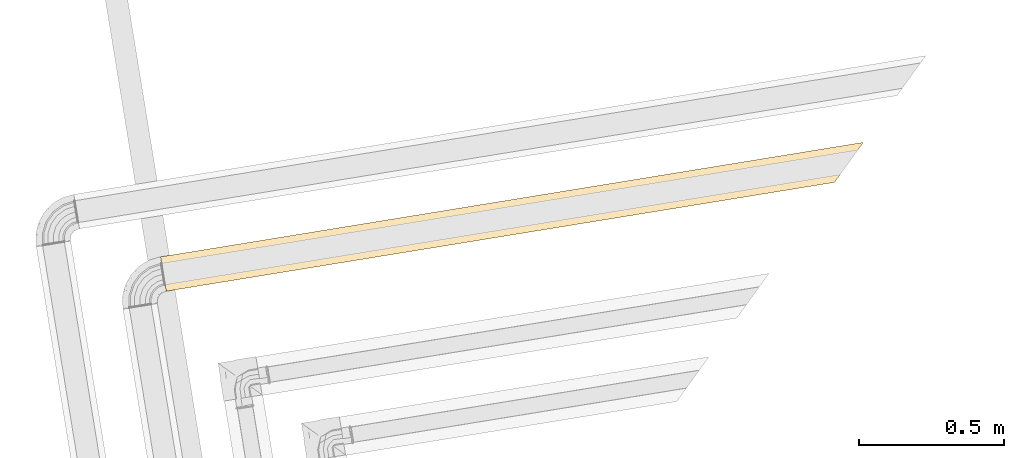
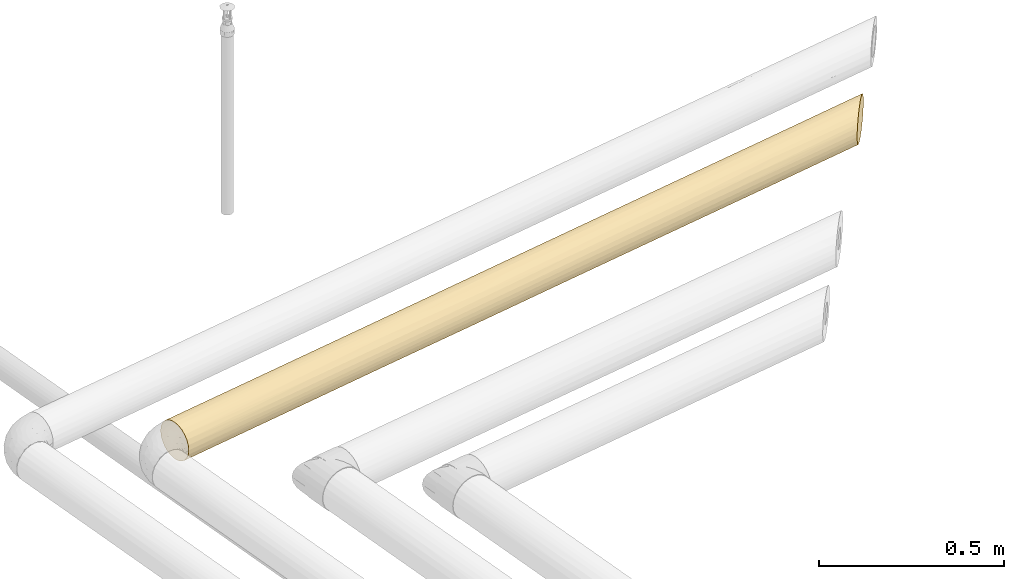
# One storey, part 6 of 46: 1 covering.
"""IFC2X3 building model written with IfcOpenShell, lengths in millimetres."""

import ifcopenshell
import ifcopenshell.guid

model = None  # the IFC model being written
_history = None  # IfcOwnerHistory: only IFC2X3 demands one
_inside = {}  # id of a spatial element -> (the spatial element, [elements in it])
_under = {}  # id of a project, library or spatial element -> (it, [spatial elements below it])
_declared = {}  # id of a project -> (the project, [libraries it declares])
_typed = {}  # id of a type object -> (the type object, [elements of that type])
_made_of = {}  # id of a material, layer set ... -> (it, [elements and type objects made of it])


def new_model(schema):
    """Start an empty IFC model of exactly this schema.

    Asked for "IFC4X3", IfcOpenShell would pick the latest addendum, in which some entities
    have other attributes; the version numbers below select the first issue.
    IFC2X3 requires an IfcOwnerHistory on every rooted entity: one is made here for all.
    """
    global model, _history
    if schema == "IFC4X3":
        model = ifcopenshell.file(schema_version=(4, 3, 0, 0))
    else:
        model = ifcopenshell.file(schema=schema)
    _inside.clear()
    _under.clear()
    _declared.clear()
    _typed.clear()
    _made_of.clear()
    _history = None
    if model.schema == "IFC2X3":
        org = make("IfcOrganization", Name="unknown")
        user = make(
            "IfcPersonAndOrganization",
            ThePerson=make("IfcPerson", FamilyName="unknown"),
            TheOrganization=org,
        )
        app = make(
            "IfcApplication",
            ApplicationDeveloper=org,
            Version="unknown",
            ApplicationFullName="unknown",
            ApplicationIdentifier="unknown",
        )
        _history = make(
            "IfcOwnerHistory",
            OwningUser=user,
            OwningApplication=app,
            ChangeAction="ADDED",
            CreationDate=0,
        )
    return model


def make(cls, **values):
    """One entity of the class cls with the attributes given. An attribute that is None is left unset."""
    return model.create_entity(
        cls, **{name: value for name, value in values.items() if value is not None}
    )


def entity(cls, *values):
    """Any entity or typed value of the class cls, its attributes in the order of the schema. None: left unset."""
    e = model.create_entity(cls)
    for i, value in enumerate(values):
        if value is not None:
            e[i] = value
    return e


def rooted(cls, **values):
    """An entity with a GlobalId (a new one), such as an element, a storey or a relation."""
    return make(cls, GlobalId=ifcopenshell.guid.new(), OwnerHistory=_history, **values)


def si_unit(unit_type, name, prefix=None):
    """IfcSIUnit, for example si_unit("LENGTHUNIT", "METRE", prefix="MILLI")."""
    return make("IfcSIUnit", UnitType=unit_type, Prefix=prefix, Name=name)


def converted_unit(unit_type, name, factor, base, dimensions=None, offset=None):
    """IfcConversionBasedUnit, such as the inch: factor (a typed value) times the base unit."""
    return make(
        "IfcConversionBasedUnit"
        if offset is None
        else "IfcConversionBasedUnitWithOffset",
        ConversionOffset=offset,
        Dimensions=None
        if dimensions is None
        else entity("IfcDimensionalExponents", *dimensions),
        UnitType=unit_type,
        Name=name,
        ConversionFactor=make(
            "IfcMeasureWithUnit", ValueComponent=factor, UnitComponent=base
        ),
    )


def derived_unit(unit_type, elements):
    """IfcDerivedUnit: a product of units, each with its exponent."""
    return make(
        "IfcDerivedUnit",
        Elements=[
            make("IfcDerivedUnitElement", Unit=unit, Exponent=power)
            for unit, power in elements
        ],
        UnitType=unit_type,
    )


def assignment(units):
    """IfcUnitAssignment: the units of a project."""
    return None if units is None else make("IfcUnitAssignment", Units=units)


def point(xyz):
    """IfcCartesianPoint."""
    return None if xyz is None else make("IfcCartesianPoint", Coordinates=xyz)


def direction(xyz):
    """IfcDirection."""
    return None if xyz is None else make("IfcDirection", DirectionRatios=xyz)


def frame(location, z_axis=None, x_axis=None):
    """IfcAxis2Placement3D, a coordinate frame: its origin and axes. An axis left out is left unset."""
    return make(
        "IfcAxis2Placement3D",
        Location=point(location),
        Axis=direction(z_axis),
        RefDirection=direction(x_axis),
    )


def origin():
    """The frame at (0, 0, 0) with its axes left unset."""
    return frame((0.0, 0.0, 0.0))


def origin_with_axes():
    """The frame at (0, 0, 0) with the z axis (0, 0, 1) and the x axis (1, 0, 0) written out."""
    return frame((0.0, 0.0, 0.0), z_axis=(0.0, 0.0, 1.0), x_axis=(1.0, 0.0, 0.0))


def place(relative_to, where):
    """IfcLocalPlacement: puts the frame where relative to a parent placement (None: the world)."""
    return make(
        "IfcLocalPlacement", PlacementRelTo=relative_to, RelativePlacement=where
    )


def context(
    kind, dimensions, precision=None, world=None, true_north=None, identifier=None
):
    """IfcGeometricRepresentationContext, for example the 3D "Model" context."""
    return make(
        "IfcGeometricRepresentationContext",
        ContextIdentifier=identifier,
        ContextType=kind,
        CoordinateSpaceDimension=dimensions,
        Precision=precision,
        WorldCoordinateSystem=world,
        TrueNorth=true_north,
    )


def subcontext(parent, identifier, kind, view, scale=None):
    """IfcGeometricRepresentationSubContext, for example "Body" below "Model"."""
    return make(
        "IfcGeometricRepresentationSubContext",
        ContextIdentifier=identifier,
        ContextType=kind,
        ParentContext=parent,
        TargetScale=scale,
        TargetView=view,
    )


def project(units=None, contexts=None):
    """IfcProject with its units and contexts."""
    return rooted(
        "IfcProject",
        Name="project",
        RepresentationContexts=contexts,
        UnitsInContext=assignment(units),
    )


def spatial(cls, under=None, at=None, **own):
    """A site, building, storey or space (cls), placed at a placement, below another one or the project."""
    s = rooted(cls, ObjectPlacement=at, **own)
    if under is not None:
        _under.setdefault(under.id(), (under, []))[1].append(s)
    return s


def faces_of(points, faces, orient=None, outer=None):
    """IfcFace entities. A face is a list of loops; a loop is a list of indices into points, from 0.

    orient and outer hold one flag for each loop. By default every Orientation is true, the
    first loop of a face is its IfcFaceOuterBound and the others are IfcFaceBound.
    """
    made = []
    for i, loops in enumerate(faces):
        bounds = []
        for j, loop in enumerate(loops):
            is_outer = j == 0 if outer is None else outer[i][j]
            bounds.append(
                make(
                    "IfcFaceOuterBound" if is_outer else "IfcFaceBound",
                    Bound=make("IfcPolyLoop", Polygon=[points[k] for k in loop]),
                    Orientation=True if orient is None else orient[i][j],
                )
            )
        made.append(make("IfcFace", Bounds=bounds))
    return made


def faceted_brep(points, faces, orient=None, outer=None, voids=None):
    """IfcFacetedBrep: a solid bounded by flat faces; with voids (closed shells), ...WithVoids."""
    shared = [point(p) for p in points]
    hull = make("IfcClosedShell", CfsFaces=faces_of(shared, faces, orient, outer))
    if voids is None:
        return make("IfcFacetedBrep", Outer=hull)
    return make(
        "IfcFacetedBrepWithVoids",
        Outer=hull,
        Voids=[
            make(cls, CfsFaces=faces_of(shared, fs, o, b)) for cls, fs, o, b in voids
        ],
    )


def shape(context_of_items, identifier, shape_type, items):
    """IfcShapeRepresentation: the items that make up one representation, for example the "Body"."""
    return make(
        "IfcShapeRepresentation",
        ContextOfItems=context_of_items,
        RepresentationIdentifier=identifier,
        RepresentationType=shape_type,
        Items=items,
    )


def made_of(thing, what):
    """Note that an element or type object is made of a material, layer set ...; save() writes the relation."""
    if what is not None:
        _made_of.setdefault(what.id(), (what, []))[1].append(thing)
    return thing


def type_object(cls, material=None, **own):
    """A type object (cls), such as IfcWallType, which elements share."""
    return made_of(rooted(cls, **own), material)


def element(
    cls,
    number,
    at=None,
    inside=None,
    cuts=None,
    type_object=None,
    material=None,
    context=None,
    identifier="Body",
    shape_type=None,
    held_by="IfcProductDefinitionShape",
    body=None,
    shapes=None,
    **own,
):
    """One element of the class cls, such as IfcWall. Its Tag is "e" and its number.

    at: its placement. inside: the storey or other place that contains it. cuts: it is an
    opening in that element (IfcRelVoidsElement). A single representation is given by context,
    identifier, shape_type and body (its items); several are given by shapes. held_by: the class
    of the entity that holds the representations. save() writes the other relations.
    """
    e = rooted(cls, Tag="e%d" % number, ObjectPlacement=at, **own)
    if body is not None:
        shapes = [shape(context, identifier, shape_type, body)]
    if shapes is not None:
        e.Representation = make(held_by, Representations=shapes)
    if inside is not None:
        _inside.setdefault(inside.id(), (inside, []))[1].append(e)
    if cuts is not None:
        rooted(
            "IfcRelVoidsElement", RelatingBuildingElement=cuts, RelatedOpeningElement=e
        )
    if type_object is not None:
        _typed.setdefault(type_object.id(), (type_object, []))[1].append(e)
    return made_of(e, material)


def aggregate(whole, parts):
    """IfcRelAggregates: a whole, such as a stair, and the parts it consists of."""
    return rooted("IfcRelAggregates", RelatingObject=whole, RelatedObjects=parts)


def save(model, path):
    """Write the relations noted so far, then the file.

    IfcRelAggregates (storeys below a building ...), IfcRelContainedInSpatialStructure (elements
    in a storey), IfcRelDefinesByType, IfcRelAssociatesMaterial and IfcRelDeclares: one each for
    every whole, place, type object, material and project.
    """
    for whole, parts in _under.values():
        aggregate(whole, parts)
    for where, things in _inside.values():
        rooted(
            "IfcRelContainedInSpatialStructure",
            RelatedElements=things,
            RelatingStructure=where,
        )
    for kind, things in _typed.values():
        rooted("IfcRelDefinesByType", RelatedObjects=things, RelatingType=kind)
    for what, things in _made_of.values():
        rooted("IfcRelAssociatesMaterial", RelatedObjects=things, RelatingMaterial=what)
    for by, libraries in _declared.values():
        rooted("IfcRelDeclares", RelatingContext=by, RelatedDefinitions=libraries)
    model.write(path)


model = new_model("IFC2X3")

# Units and contexts
model_context = context("Model", 3, precision=0.01, world=origin(), true_north=direction((6.12323399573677e-17, 1.0)))
plan_context = context("Plan", 3, precision=1e-05, world=origin_with_axes())
body_context = subcontext(model_context, "Body", "Model", "MODEL_VIEW")
ifc_project = project(units=[converted_unit("PLANEANGLEUNIT", "DEGREE", entity("IfcPositiveLengthMeasure", 0.0174532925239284), si_unit("PLANEANGLEUNIT", "RADIAN"), dimensions=[0, 0, 0, 0, 0, 0, 0]), si_unit("AREAUNIT", "SQUARE_METRE"), si_unit("LENGTHUNIT", "METRE", prefix="MILLI"), si_unit("MASSUNIT", "GRAM", prefix="KILO"), si_unit("POWERUNIT", "WATT"), si_unit("PRESSUREUNIT", "PASCAL", prefix="KILO"), si_unit("FORCEUNIT", "NEWTON", prefix="KILO"), si_unit("ELECTRICVOLTAGEUNIT", "VOLT"), si_unit("ELECTRICCURRENTUNIT", "AMPERE"), si_unit("THERMODYNAMICTEMPERATUREUNIT", "DEGREE_CELSIUS"), si_unit("TIMEUNIT", "SECOND"), si_unit("VOLUMEUNIT", "CUBIC_METRE"), derived_unit("LINEARVELOCITYUNIT", [(si_unit("LENGTHUNIT", "METRE"), 1), (si_unit("TIMEUNIT", "SECOND"), -1)]), derived_unit("VOLUMETRICFLOWRATEUNIT", [(si_unit("VOLUMEUNIT", "CUBIC_METRE"), 1), (si_unit("TIMEUNIT", "SECOND"), -1)]), derived_unit("THERMALTRANSMITTANCEUNIT", [(si_unit("POWERUNIT", "WATT"), 1), (si_unit("THERMODYNAMICTEMPERATUREUNIT", "KELVIN"), -1), (si_unit("AREAUNIT", "SQUARE_METRE"), -1)]), derived_unit("SOUNDPRESSUREUNIT", [(si_unit("PRESSUREUNIT", "PASCAL"), 1)])], contexts=[model_context, plan_context])

# Site, building, storey
site_placement = place(None, frame((-3.09682673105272e-06, 1.93776733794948e-05, 0.0), z_axis=(0.0, 0.0, 1.0), x_axis=(-0.160806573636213, 0.986985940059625, 0.0)))
site = spatial("IfcSite", under=ifc_project, at=site_placement, Name="Default", CompositionType="ELEMENT")
building_placement = place(site_placement, frame((0.0, 0.0, 0.0), z_axis=(0.0, 0.0, 1.0), x_axis=(1.0, -2.77555756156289e-17, 0.0)))
building = spatial("IfcBuilding", under=site, at=building_placement, Name="Bygning (endres i Project Information)", CompositionType="ELEMENT")
storey_placement = place(building_placement, frame((0.0, 0.0, 51360.0000000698), z_axis=(0.0, 0.0, 1.0), x_axis=(1.0, -2.77555756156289e-17, 0.0)))
storey = spatial("IfcBuildingStorey", under=building, at=storey_placement, Name="H01-Nivå D+0,36", CompositionType="ELEMENT", Elevation=51360.0000000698)

# Covering
covering_type = type_object("IfcCoveringType", Name="Pipe Insulation:GLAVA avløpsisol. slange økende 19mm (15,5-25,0)", PredefinedType="INSULATION")
covering_placement = place(storey_placement, frame((999641.722371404, -356574.315734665, 3378.35472846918), z_axis=(0.0, 0.0, 1.0), x_axis=(1.0, -2.77555756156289e-17, 0.0)))
element("IfcCovering", 1, at=covering_placement, inside=storey, type_object=covering_type, Name="Pipe Insulation:GLAVA avløpsisol. slange økende 19mm (15,5-25,0)", ObjectType="Pipe Insulation:GLAVA avløpsisol. slange økende 19mm (15,5-25,0)", PredefinedType="INSULATION", context=body_context, shape_type="Brep", body=[
    faceted_brep([(46.103188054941, 9470.41657930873, 3.64142634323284), (61.6452715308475, 9470.41657930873, 1.5952722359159), (77.1873550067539, 9470.41657930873, 3.64142634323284), (91.6702711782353, 9470.41657930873, 9.64044664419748), (104.107033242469, 9470.41657930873, 19.183509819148), (113.650096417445, 9470.41657930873, 31.6202718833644), (119.649116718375, 9470.41657930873, 46.1031880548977), (121.695270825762, 9470.41657930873, 61.6452715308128), (119.649116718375, 9470.41657930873, 77.1873550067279), (113.650096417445, 9470.41657930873, 91.6702711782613), (104.107033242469, 9470.41657930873, 104.107033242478), (91.6702711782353, 9470.41657930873, 113.650096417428), (77.1873550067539, 9470.41657930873, 119.649116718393), (61.6452715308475, 9470.41657930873, 121.69527082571), (46.103188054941, 9470.41657930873, 119.649116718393), (31.6202718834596, 9470.41657930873, 113.650096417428), (19.1835098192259, 9470.41657930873, 104.107033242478), (9.64044664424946, 9470.41657930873, 91.6702711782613), (3.64142634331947, 9470.41657930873, 77.1873550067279), (1.59527223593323, 9470.41657930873, 61.6452715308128), (3.64142634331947, 9470.41657930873, 46.1031880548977), (9.64044664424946, 9470.41657930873, 31.6202718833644), (19.1835098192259, 9470.41657930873, 19.183509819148), (31.6202718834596, 9470.41657930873, 9.64044664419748), (51.1323782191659, 9144.55631992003, 2.52267441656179), (61.6452715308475, 8929.25878221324, 1.5952722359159), (72.158164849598, 9144.55631963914, 2.52267441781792), (84.6254113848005, 9220.63865907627, 6.16630625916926), (84.6254113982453, 8895.32888914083, 6.16630626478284), (73.173048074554, 8818.96736822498, 2.7121502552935), (80.9802895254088, 8626.04738102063, 4.79318718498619), (95.2146499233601, 8774.68603758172, 11.8547177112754), (98.2013949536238, 8447.65318006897, 14.0044040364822), (81.1113570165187, 8337.65684450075, 4.83793106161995), (61.6452715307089, 8388.10098511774, 1.5952722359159), (61.6452715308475, 7846.94318802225, 1.5952722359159), (79.6262565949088, 7815.53984817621, 4.35053711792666), (94.8385754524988, 8001.08700321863, 11.6032193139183), (93.3640399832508, 7543.62684894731, 10.655839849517), (106.871645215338, 7710.58258608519, 22.1411256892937), (102.29698068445, 7451.74297196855, 17.4475231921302), (109.306907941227, 7306.31651650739, 25.1162306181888), (97.3992804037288, 7044.40267839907, 13.4045201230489), (97.5525973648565, 7044.24936143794, 13.5644236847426), (108.598343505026, 7033.20361529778, 24.218372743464), (113.507618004, 7028.2943407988, 32.4811816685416), (116.851917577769, 7110.02420536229, 38.0184086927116), (115.251075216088, 7406.79723338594, 34.5820081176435), (119.503194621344, 7424.13453996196, 45.5684823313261), (115.114315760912, 7856.0038973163, 34.3128050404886), (120.60742293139, 7702.65563488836, 50.2669097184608), (121.695270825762, 7424.13467269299, 61.6452715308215), (121.695270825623, 7745.45601584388, 61.6452715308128), (121.695270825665, 7020.10668797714, 61.6452715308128), (121.447790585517, 7020.35416821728, 63.2941880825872), (119.0494992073, 7368.17732923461, 79.2735743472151), (121.695270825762, 7846.9415834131, 61.6452715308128), (120.0905192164, 7021.7114395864, 75.0345093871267), (32.3682339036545, 7109.43372489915, 113.863973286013), (29.5711336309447, 7112.23082517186, 112.403602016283), (29.859715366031, 7170.07257263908, 112.593096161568), (28.2021410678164, 7113.59981773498, 111.27415965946), (20.8334235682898, 7120.96853523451, 105.429712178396), (19.3275044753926, 7122.47445432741, 104.246604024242), (21.5659241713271, 7408.95120936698, 106.362699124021), (18.9886693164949, 7122.81328948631, 103.835887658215), (9.81410227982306, 7492.62138067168, 91.9690626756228), (11.8361705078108, 7129.96578829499, 95.1371834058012), (7.96040557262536, 7133.84155323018, 88.2894478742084), (7.1640898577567, 7150.26579430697, 86.9000385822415), (7.35083602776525, 7134.45112277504, 87.2306335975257), (7.05556999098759, 7134.74638881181, 86.6164525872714), (49.8635625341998, 7091.9383962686, 2.78757571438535), (61.6452715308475, 7080.15668727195, 1.5952722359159), (61.6452715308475, 7305.78539092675, 1.5952722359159), (77.4806608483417, 7064.32129795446, 3.98838667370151), (116.95826145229, 7024.84369735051, 38.2740885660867), (118.609520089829, 7023.19243871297, 43.6993038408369), (79.4781727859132, 7062.32378601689, 4.30527305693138), (97.1172696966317, 7044.68468910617, 13.2399997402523), (80.6570634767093, 7425.10393999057, 4.68428328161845), (97.3013435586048, 7044.50061524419, 13.3294246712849), (44.0169687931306, 7368.17734147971, 4.24104383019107), (43.6642865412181, 7815.53985363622, 4.35053709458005), (29.9265032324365, 7543.62685572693, 10.6558397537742), (28.8419909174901, 7112.95996788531, 11.3500973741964), (32.4383972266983, 7109.3635615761, 9.69421172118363), (26.9531114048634, 7114.84884739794, 12.7764443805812), (21.5659243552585, 7408.95121354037, 16.9278437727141), (19.3275047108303, 7122.47445409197, 19.0439388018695), (18.9886696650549, 7122.81328913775, 19.454655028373), (9.81410237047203, 7492.62137745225, 31.3214802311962), (17.1621717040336, 7669.7074729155, 21.3060072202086), (8.17622736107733, 7856.00389376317, 34.3128049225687), (3.50434064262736, 7544.857439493, 46.6241340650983), (7.16408996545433, 7150.26578773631, 36.3905042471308), (7.67633726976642, 7134.12562153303, 35.4943777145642), (11.5628760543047, 7130.2390827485, 28.5746718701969), (7.14038438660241, 7134.6615744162, 36.4429338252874), (2.97191058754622, 7138.83004821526, 48.8652128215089), (3.54866795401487, 7138.25329084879, 47.1260891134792), (2.94414763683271, 7194.92355836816, 48.9890292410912), (2.76894423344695, 7139.03301456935, 50.6329295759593), (1.59527223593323, 7140.20668656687, 61.6452715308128), (1.59527223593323, 7305.78510680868, 61.6452715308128), (2.44337060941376, 7139.35858819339, 70.2671086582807), (2.81127398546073, 7138.99068481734, 73.6406189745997), (3.29306478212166, 7576.36404505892, 75.8235077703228), (6.2404948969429, 7135.56146390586, 84.0664184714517), (1.59527223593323, 7846.94297493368, 61.6452715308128), (3.2466437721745, 8012.19239426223, 75.6310747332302), (8.17622730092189, 7856.00389466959, 88.9777380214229), (17.1621715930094, 7669.70746944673, 101.984535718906), (16.0038809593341, 8127.16762406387, 100.66918576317), (28.4519676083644, 8001.08700184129, 111.687323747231), (29.9265030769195, 7543.62684721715, 112.634703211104), (43.6642864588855, 7815.53984653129, 118.940005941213), (42.1791860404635, 8337.65684335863, 118.452611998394), (61.6452715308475, 7846.94242931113, 121.69527082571), (61.6452715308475, 8388.10047931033, 121.69527082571), (42.3102535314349, 8626.04738015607, 118.497355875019), (50.1174949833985, 8818.96736739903, 120.578392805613), (38.6651316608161, 8895.32888853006, 117.124236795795), (28.0758931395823, 8774.68603685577, 111.435825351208), (25.0891481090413, 8447.65317903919, 109.28613902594), (13.7482800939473, 8579.08953898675, 97.8651642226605), (14.0044039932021, 9026.71441882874, 98.2013948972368), (25.0891481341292, 9101.71889465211, 109.286139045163), (6.16630624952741, 9150.52193687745, 84.6254113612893), (6.16630624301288, 8768.72353540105, 84.6254113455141), (2.70910362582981, 8827.62616896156, 73.1574619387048), (2.86106187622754, 8339.89136456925, 73.9098184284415), (6.63500728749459, 8307.92580961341, 85.7258288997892), (1.59527223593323, 8388.10084305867, 61.6452715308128), (1.59527223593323, 8929.25871118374, 61.6452715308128), (2.48138199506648, 9149.4277769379, 71.9232377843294), (2.48138199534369, 9149.42777734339, 51.3673052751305), (6.16630625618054, 9150.5219369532, 38.6651316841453), (2.70910363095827, 8827.62616979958, 50.1330810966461), (6.16630625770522, 8768.72353578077, 38.6651316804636), (2.86106188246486, 8339.89136322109, 49.3807246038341), (3.2466437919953, 8012.19239317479, 47.6594682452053), (6.63500731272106, 8307.92580925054, 37.5647141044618), (16.0038810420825, 8127.16762519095, 22.6213572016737), (13.748280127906, 8579.08954070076, 25.4253787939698), (25.0891481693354, 8447.65318276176, 14.0044039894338), (28.0758932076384, 8774.68603898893, 11.8547176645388), (42.3102535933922, 8626.04738378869, 4.79318716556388), (38.6651317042, 8895.32889030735, 6.16630624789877), (50.1174950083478, 8818.9673693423, 2.71215025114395), (42.1791860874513, 8337.65684886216, 4.83793104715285), (38.6651316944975, 9220.6386597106, 6.16630625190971), (25.0891481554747, 9101.71889522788, 14.0044040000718), (14.004404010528, 9026.71441928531, 25.0891481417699), (28.4519677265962, 8001.08700804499, 11.6032192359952), (38.6651316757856, 9220.63865882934, 117.124236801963), (51.1323782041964, 9144.5563193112, 120.767868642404), (61.6452715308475, 8929.25852930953, 121.69527082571), (71.9232377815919, 9149.42777705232, 120.809161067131), (73.1574619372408, 8827.62616928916, 120.581439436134), (73.9098184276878, 8339.89136537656, 120.429481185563), (75.631074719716, 8012.19239523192, 120.04389929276), (85.725828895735, 8307.92581040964, 116.655535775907), (84.625411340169, 8768.72353568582, 117.124236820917), (97.865164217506, 8579.08953932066, 109.542262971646), (100.669185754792, 8127.16762491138, 107.28666210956), (109.286139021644, 8447.65317930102, 98.2013949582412), (111.687323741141, 8001.08700210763, 94.8385754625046), (118.452611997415, 8337.65684356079, 81.1113570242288), (118.940005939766, 7815.53984689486, 79.626256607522), (121.695270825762, 8388.10049226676, 61.6452715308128), (121.695270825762, 8066.77735899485, 61.6452715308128), (118.497355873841, 8626.04738034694, 80.9802895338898), (120.578392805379, 8818.96736767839, 73.1730480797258), (117.124236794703, 8895.32888871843, 84.6254114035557), (111.435825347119, 8774.68603707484, 95.2146499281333), (109.286139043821, 9101.71889481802, 98.2013949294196), (98.2013948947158, 9026.71441901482, 109.286139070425), (84.625411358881, 9150.52193701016, 117.124236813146), (117.124236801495, 9220.63865889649, 84.6254113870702), (120.767868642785, 9144.55631943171, 72.1581648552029), (121.695270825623, 8929.25764072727, 61.6452715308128), (120.80916106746, 9149.42777722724, 51.3673052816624), (120.581439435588, 8827.62616974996, 50.1330811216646), (120.432387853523, 8336.79760865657, 49.3946646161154), (117.124236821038, 8768.7235360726, 38.6651317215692), (116.655535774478, 8307.92581126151, 37.5647141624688), (120.28290323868, 8006.2254309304, 48.6980493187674), (107.286662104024, 8127.1676259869, 22.6213573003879), (109.54226297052, 8579.08953988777, 25.4253788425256), (109.286139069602, 9026.71441927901, 25.0891481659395), (98.2013949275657, 9101.71889506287, 14.0044040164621), (117.124236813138, 9150.52193717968, 38.665131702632), (112.634703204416, 7543.62684749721, 93.3640399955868), (101.984535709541, 7669.7074702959, 106.128371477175), (106.362699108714, 7408.95121031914, 101.724618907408), (91.9690626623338, 7492.62138258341, 113.476440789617), (104.171786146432, 7112.34562228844, 104.042181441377), (96.0929267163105, 7045.70903208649, 110.803651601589), (95.8713053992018, 7045.9306534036, 110.985815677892), (104.145373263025, 7037.65658553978, 104.068607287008), (57.0372294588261, 7084.76472934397, 121.003665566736), (47.366240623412, 7094.43571817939, 119.872005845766), (44.0169687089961, 7368.17732929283, 119.04949920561), (61.6452715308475, 7080.15668727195, 121.69527082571), (61.6452715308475, 7305.78437931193, 121.69527082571), (75.8235077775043, 7576.36404524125, 119.997478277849), (88.9777380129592, 7856.00389596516, 115.114315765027), (86.9000385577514, 7150.26579692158, 116.126453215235), (73.3458521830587, 7079.92989228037, 120.544327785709), (85.1887258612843, 7056.61323294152, 116.781321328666), (73.5412642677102, 7068.26069453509, 120.495159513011), (72.9353070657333, 7068.86665173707, 120.584711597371), (88.9361187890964, 7052.8658400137, 114.976314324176), (41.1108675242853, 7100.69109127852, 118.024741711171), (115.608534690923, 7026.19342411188, 87.4788097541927), (112.133122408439, 7029.66883639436, 94.1313243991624), (112.593096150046, 7170.07257326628, 93.4308277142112), (109.378269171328, 7032.42368963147, 97.4710635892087), (117.731204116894, 7024.07075468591, 83.0121163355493), (95.7128711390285, 7046.08908766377, 111.075531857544), (49.5173609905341, 7092.28459781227, 2.83755449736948), (41.1108676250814, 7100.69109117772, 5.26580130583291), (121.158339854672, 7020.64361894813, 56.1757989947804), (121.695270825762, 7102.81153942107, 61.6452715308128), (120.350876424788, 7021.45108237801, 49.1346541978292), (121.695270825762, 7305.78383220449, 61.6452715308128)], [[[0, 1, 2, 3, 4, 5, 6, 7, 8, 9, 10, 11, 12, 13, 14, 15, 16, 17, 18, 19, 20, 21, 22, 23]], [[24, 25, 1]], [[25, 26, 1]], [[1, 26, 2]], [[26, 27, 2]], [[27, 26, 28]], [[26, 29, 28]], [[29, 30, 28]], [[31, 28, 30]], [[32, 31, 30]], [[33, 32, 30]], [[33, 30, 34]], [[34, 35, 33]], [[35, 36, 33]], [[36, 37, 33]], [[37, 36, 38]], [[38, 39, 37]], [[40, 39, 38]], [[39, 40, 41]], [[42, 43, 41, 40]], [[43, 44, 41]], [[44, 45, 46, 41]], [[41, 46, 47]], [[46, 48, 47]], [[47, 48, 49]], [[48, 50, 49]], [[48, 51, 50]], [[52, 50, 51]], [[53, 54, 55, 56]], [[54, 57, 55]], [[58, 59, 60]], [[59, 61, 60]], [[61, 62, 60]], [[62, 63, 64, 60]], [[63, 65, 66, 64]], [[65, 67, 66]], [[67, 68, 69, 66]], [[68, 70, 69]], [[70, 71, 69]], [[72, 73, 74]], [[73, 75, 74]], [[76, 77, 46]], [[78, 79, 80]], [[79, 81, 38, 80]], [[75, 78, 80, 74]], [[80, 35, 74]], [[74, 35, 82]], [[83, 82, 35]], [[82, 83, 84]], [[85, 86, 82, 84]], [[87, 85, 84, 88]], [[89, 87, 88]], [[90, 89, 88, 91]], [[88, 92, 91]], [[92, 93, 91]], [[93, 94, 91]], [[95, 91, 94]], [[96, 97, 91, 95]], [[98, 96, 95]], [[99, 100, 101]], [[102, 99, 101]], [[103, 102, 101, 104]], [[105, 103, 104]], [[106, 105, 104, 107]], [[108, 106, 107, 69]], [[104, 109, 107]], [[109, 110, 107]], [[111, 107, 110]], [[111, 66, 107]], [[112, 66, 111]], [[111, 113, 112]], [[114, 112, 113]], [[112, 114, 115]], [[114, 116, 115]], [[116, 114, 117]], [[118, 116, 117]], [[119, 118, 117]], [[117, 120, 119]], [[119, 120, 121]], [[121, 120, 122]], [[123, 122, 120]], [[124, 123, 120]], [[124, 125, 123]], [[123, 125, 126]], [[126, 127, 123]], [[16, 127, 126]], [[16, 126, 17]], [[126, 128, 17]], [[129, 128, 126]], [[129, 130, 128]], [[130, 129, 131]], [[129, 132, 131]], [[132, 110, 131]], [[131, 110, 133]], [[129, 125, 132]], [[113, 132, 125]], [[131, 133, 130]], [[130, 133, 134]], [[130, 134, 135]], [[135, 134, 19]], [[18, 135, 19]], [[18, 128, 135]], [[134, 136, 19]], [[19, 136, 20]], [[137, 20, 136]], [[137, 136, 138]], [[139, 137, 138]], [[139, 138, 140]], [[133, 140, 138]], [[140, 133, 141]], [[109, 141, 133]], [[94, 141, 109]], [[140, 141, 142]], [[142, 141, 93]], [[142, 93, 143]], [[142, 143, 144]], [[145, 144, 143]], [[145, 146, 144]], [[147, 146, 145]], [[148, 146, 147]], [[149, 148, 147]], [[149, 147, 34]], [[25, 149, 34]], [[29, 25, 34]], [[147, 150, 34]], [[148, 149, 24]], [[24, 151, 148]], [[148, 151, 152]], [[23, 152, 151]], [[152, 23, 22]], [[152, 22, 153]], [[153, 146, 152]], [[22, 21, 153]], [[21, 137, 153]], [[23, 151, 0]], [[0, 151, 24]], [[148, 152, 146]], [[150, 147, 145]], [[154, 150, 145]], [[154, 83, 150]], [[146, 153, 144]], [[144, 153, 139]], [[145, 143, 154]], [[92, 154, 143]], [[92, 84, 154]], [[144, 139, 142]], [[142, 139, 140]], [[153, 137, 139]], [[21, 20, 137]], [[136, 134, 138]], [[138, 134, 133]], [[130, 135, 128]], [[18, 17, 128]], [[15, 127, 16]], [[15, 155, 127]], [[122, 127, 155]], [[155, 156, 122]], [[156, 155, 14]], [[13, 156, 14]], [[157, 156, 13]], [[121, 156, 157]], [[158, 157, 13]], [[159, 157, 158]], [[159, 119, 157]], [[160, 119, 159]], [[160, 161, 119]], [[162, 161, 160]], [[163, 162, 160]], [[163, 164, 162]], [[165, 162, 164]], [[166, 165, 164]], [[165, 166, 167]], [[167, 166, 168]], [[169, 167, 168]], [[56, 169, 168]], [[170, 171, 56, 168]], [[168, 172, 170]], [[170, 172, 173]], [[173, 172, 174]], [[175, 174, 172]], [[166, 175, 172]], [[174, 175, 176]], [[177, 176, 175]], [[175, 164, 177]], [[10, 176, 177]], [[10, 177, 11]], [[177, 178, 11]], [[163, 178, 177]], [[163, 159, 178]], [[12, 11, 178]], [[12, 178, 158]], [[176, 10, 9]], [[9, 179, 176]], [[9, 8, 179]], [[180, 179, 8]], [[179, 180, 174]], [[7, 180, 8]], [[181, 180, 7]], [[173, 180, 181]], [[182, 181, 7]], [[183, 181, 182]], [[183, 170, 181]], [[184, 170, 183]], [[183, 185, 184]], [[185, 186, 184]], [[186, 187, 184]], [[49, 187, 186]], [[188, 49, 186]], [[39, 49, 188]], [[188, 186, 189]], [[189, 32, 188]], [[37, 188, 32]], [[187, 171, 184]], [[185, 189, 186]], [[185, 190, 189]], [[31, 189, 190]], [[190, 191, 31]], [[4, 191, 190]], [[4, 190, 5]], [[190, 192, 5]], [[6, 5, 192]], [[6, 192, 182]], [[191, 4, 3]], [[3, 27, 191]], [[185, 192, 190]], [[185, 183, 192]], [[183, 182, 192]], [[6, 182, 7]], [[174, 176, 179]], [[180, 173, 174]], [[173, 181, 170]], [[170, 184, 171]], [[167, 169, 193]], [[194, 167, 193]], [[193, 195, 194]], [[194, 195, 196]], [[196, 195, 197]], [[198, 199, 196, 197]], [[200, 198, 197]], [[201, 202, 203]], [[204, 201, 203, 118]], [[205, 118, 206]], [[118, 161, 206]], [[207, 206, 161]], [[207, 196, 206]], [[208, 206, 196]], [[208, 209, 206]], [[210, 211, 209, 208]], [[211, 212, 209]], [[213, 210, 208]], [[205, 206, 209]], [[202, 214, 203]], [[212, 204, 205, 209]], [[215, 216, 217]], [[216, 218, 217]], [[219, 215, 217, 55]], [[193, 55, 217]], [[220, 213, 208]], [[218, 200, 197, 217]], [[199, 220, 208, 196]], [[197, 195, 217]], [[194, 196, 207]], [[207, 165, 194]], [[217, 195, 193]], [[169, 55, 193]], [[168, 166, 172]], [[167, 194, 165]], [[166, 164, 175]], [[165, 207, 162]], [[163, 177, 164]], [[207, 161, 162]], [[159, 163, 160]], [[159, 158, 178]], [[12, 158, 13]], [[15, 14, 155]], [[129, 126, 125]], [[124, 113, 125]], [[122, 123, 127]], [[156, 121, 122]], [[121, 157, 119]], [[117, 124, 120]], [[118, 119, 161]], [[203, 116, 118]], [[114, 124, 117]], [[203, 115, 116]], [[115, 203, 60]], [[115, 64, 112]], [[113, 124, 114]], [[113, 111, 132]], [[111, 110, 132]], [[109, 133, 110]], [[94, 109, 104]], [[94, 104, 101]], [[100, 98, 95, 101]], [[95, 94, 101]], [[94, 93, 141]], [[92, 143, 93]], [[97, 90, 91]], [[84, 92, 88]], [[154, 84, 83]], [[150, 83, 35]], [[221, 72, 74, 82]], [[222, 221, 82]], [[86, 222, 82]], [[71, 108, 69]], [[69, 107, 66]], [[112, 64, 66]], [[60, 64, 115]], [[214, 58, 60, 203]], [[57, 219, 55]], [[55, 169, 56]], [[52, 56, 171, 187]], [[223, 53, 224]], [[225, 223, 224, 48]], [[52, 187, 50]], [[224, 226, 51, 48]], [[50, 187, 49]], [[39, 47, 49]], [[77, 225, 48, 46]], [[45, 76, 46]], [[41, 47, 39]], [[81, 42, 40, 38]], [[37, 39, 188]], [[80, 38, 36]], [[36, 35, 80]], [[34, 150, 35]], [[37, 32, 33]], [[32, 189, 31]], [[28, 31, 191]], [[34, 30, 29]], [[28, 191, 27]], [[27, 3, 2]], [[29, 26, 25]], [[149, 25, 24]], [[0, 24, 1]], [[81, 79, 78, 75, 73, 72, 221, 222, 86, 85, 87, 89, 90, 97, 96, 98, 100, 99, 102, 103, 105, 106, 108, 71, 70, 68, 67, 65, 63, 62, 61, 59, 58, 214, 202, 201, 204, 212, 211, 210, 213, 220, 199, 198, 200, 218, 216, 215, 219, 57, 54, 53, 223, 225, 77, 76, 45, 44, 43, 42]]], orient=[[False], [False], [False], [False], [False], [False], [False], [False], [False], [False], [False], [False], [False], [False], [False], [False], [False], [False], [False], [False], [False], [False], [False], [False], [False], [False], [False], [False], [False], [False], [False], [False], [False], [False], [False], [False], [False], [False], [False], [False], [False], [False], [False], [False], [False], [False], [False], [False], [False], [False], [False], [False], [False], [False], [False], [False], [False], [False], [False], [False], [False], [False], [False], [False], [False], [False], [False], [False], [False], [False], [False], [False], [False], [False], [False], [False], [False], [False], [False], [False], [False], [False], [False], [False], [False], [False], [False], [False], [False], [False], [False], [False], [False], [False], [False], [False], [False], [False], [False], [False], [False], [False], [False], [False], [False], [False], [False], [False], [False], [False], [False], [False], [False], [False], [False], [False], [False], [False], [False], [False], [False], [False], [False], [False], [False], [False], [False], [False], [False], [False], [False], [False], [False], [False], [False], [False], [False], [False], [False], [False], [False], [False], [False], [False], [False], [False], [False], [False], [False], [False], [False], [False], [False], [False], [False], [False], [False], [False], [False], [False], [False], [False], [False], [False], [False], [False], [False], [False], [False], [False], [False], [False], [False], [False], [False], [False], [False], [False], [False], [False], [False], [False], [False], [False], [False], [False], [False], [False], [False], [False], [False], [False], [False], [False], [False], [False], [False], [False], [False], [False], [False], [False], [False], [False], [False], [False], [False], [False], [False], [False], [False], [False], [False], [False], [False], [False], [False], [False], [False], [False], [False], [False], [False], [False], [False], [False], [False], [False], [False], [False], [False], [False], [False], [False], [False], [False], [False], [False], [False], [False], [False], [False], [False], [False], [False], [False], [False], [False], [False], [False], [False], [False], [False], [False], [False], [False], [False], [False], [False], [False], [False], [False], [False], [False], [False], [False], [False], [False], [False], [False], [False], [False], [False], [False], [False], [False], [False], [False], [False], [False], [False], [False], [False], [False], [False], [False], [False], [False], [False], [False], [False], [False], [False], [False], [False], [False], [False], [False], [False], [False], [False], [False], [False], [False], [False], [False], [False], [False], [False], [False], [False], [False], [False], [False], [False], [False], [False], [False], [False], [False], [False], [False], [False], [False], [False], [False], [False], [False], [False], [False], [False], [False], [False], [False], [False], [False]]),
])

save(model, "model.ifc")
